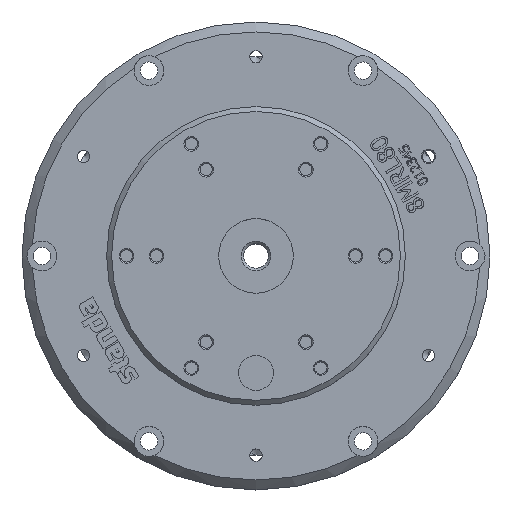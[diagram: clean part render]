
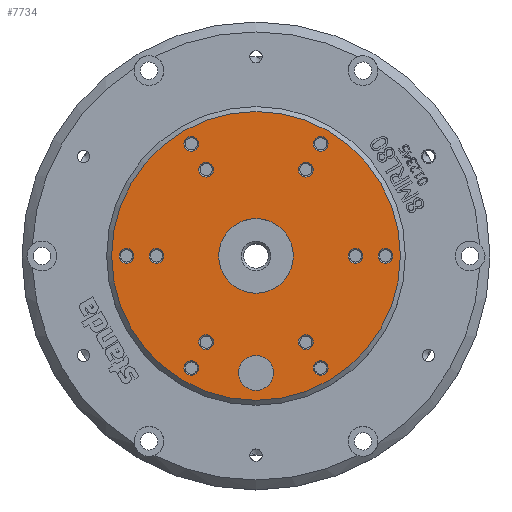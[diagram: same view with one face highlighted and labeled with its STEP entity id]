
A CAD part, top view. The second image highlights one B-rep face of the part: STEP entity #7734.
In plain terms, the highlighted planar face has unit normal (0, 0, 1).
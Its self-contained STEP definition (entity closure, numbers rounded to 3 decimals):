
#521=FACE_BOUND($,#1673,.T.);
#522=FACE_BOUND($,#1674,.T.);
#523=FACE_BOUND($,#1675,.T.);
#524=FACE_BOUND($,#1676,.T.);
#525=FACE_BOUND($,#1677,.T.);
#526=FACE_BOUND($,#1678,.T.);
#527=FACE_BOUND($,#1679,.T.);
#528=FACE_BOUND($,#1680,.T.);
#529=FACE_BOUND($,#1681,.T.);
#530=FACE_BOUND($,#1682,.T.);
#531=FACE_BOUND($,#1683,.T.);
#532=FACE_BOUND($,#1684,.T.);
#533=FACE_BOUND($,#1685,.T.);
#534=FACE_BOUND($,#1686,.T.);
#535=FACE_BOUND($,#1687,.T.);
#789=PLANE($,#8187);
#1673=EDGE_LOOP($,(#7112));
#1674=EDGE_LOOP($,(#7113));
#1675=EDGE_LOOP($,(#7114));
#1676=EDGE_LOOP($,(#7115));
#1677=EDGE_LOOP($,(#7116));
#1678=EDGE_LOOP($,(#7117));
#1679=EDGE_LOOP($,(#7118));
#1680=EDGE_LOOP($,(#7119));
#1681=EDGE_LOOP($,(#7120));
#1682=EDGE_LOOP($,(#7121));
#1683=EDGE_LOOP($,(#7122));
#1684=EDGE_LOOP($,(#7123));
#1685=EDGE_LOOP($,(#7124));
#1686=EDGE_LOOP($,(#7125));
#1687=EDGE_LOOP($,(#7126));
#3198=CIRCLE($,#8186,1.48);
#3199=CIRCLE($,#8188,1.48);
#3200=CIRCLE($,#8189,1.48);
#3201=CIRCLE($,#8190,1.48);
#3202=CIRCLE($,#8191,1.48);
#3203=CIRCLE($,#8192,1.48);
#3204=CIRCLE($,#8193,1.48);
#3205=CIRCLE($,#8194,3.5);
#3206=CIRCLE($,#8195,7.5);
#3207=CIRCLE($,#8196,29.);
#3208=CIRCLE($,#8197,1.48);
#3209=CIRCLE($,#8198,1.48);
#3210=CIRCLE($,#8199,1.48);
#3211=CIRCLE($,#8200,1.48);
#3212=CIRCLE($,#8201,1.48);
#3950=VERTEX_POINT($,#13811);
#3951=VERTEX_POINT($,#13814);
#3952=VERTEX_POINT($,#13816);
#3953=VERTEX_POINT($,#13818);
#3954=VERTEX_POINT($,#13820);
#3955=VERTEX_POINT($,#13822);
#3956=VERTEX_POINT($,#13824);
#3957=VERTEX_POINT($,#13826);
#3958=VERTEX_POINT($,#13828);
#3959=VERTEX_POINT($,#13830);
#3960=VERTEX_POINT($,#13832);
#3961=VERTEX_POINT($,#13834);
#3962=VERTEX_POINT($,#13836);
#3963=VERTEX_POINT($,#13838);
#3964=VERTEX_POINT($,#13840);
#5031=EDGE_CURVE($,#3950,#3950,#3198,.T.);
#5032=EDGE_CURVE($,#3951,#3951,#3199,.T.);
#5033=EDGE_CURVE($,#3952,#3952,#3200,.T.);
#5034=EDGE_CURVE($,#3953,#3953,#3201,.T.);
#5035=EDGE_CURVE($,#3954,#3954,#3202,.T.);
#5036=EDGE_CURVE($,#3955,#3955,#3203,.T.);
#5037=EDGE_CURVE($,#3956,#3956,#3204,.T.);
#5038=EDGE_CURVE($,#3957,#3957,#3205,.T.);
#5039=EDGE_CURVE($,#3958,#3958,#3206,.T.);
#5040=EDGE_CURVE($,#3959,#3959,#3207,.T.);
#5041=EDGE_CURVE($,#3960,#3960,#3208,.T.);
#5042=EDGE_CURVE($,#3961,#3961,#3209,.T.);
#5043=EDGE_CURVE($,#3962,#3962,#3210,.T.);
#5044=EDGE_CURVE($,#3963,#3963,#3211,.T.);
#5045=EDGE_CURVE($,#3964,#3964,#3212,.T.);
#7112=ORIENTED_EDGE($,*,*,#5032,.F.);
#7113=ORIENTED_EDGE($,*,*,#5033,.F.);
#7114=ORIENTED_EDGE($,*,*,#5034,.F.);
#7115=ORIENTED_EDGE($,*,*,#5035,.F.);
#7116=ORIENTED_EDGE($,*,*,#5036,.F.);
#7117=ORIENTED_EDGE($,*,*,#5037,.F.);
#7118=ORIENTED_EDGE($,*,*,#5038,.T.);
#7119=ORIENTED_EDGE($,*,*,#5039,.T.);
#7120=ORIENTED_EDGE($,*,*,#5040,.F.);
#7121=ORIENTED_EDGE($,*,*,#5041,.F.);
#7122=ORIENTED_EDGE($,*,*,#5042,.F.);
#7123=ORIENTED_EDGE($,*,*,#5043,.F.);
#7124=ORIENTED_EDGE($,*,*,#5044,.F.);
#7125=ORIENTED_EDGE($,*,*,#5045,.F.);
#7126=ORIENTED_EDGE($,*,*,#5031,.F.);
#7734=ADVANCED_FACE($,(#521,#522,#523,#524,#525,#526,#527,#528,#529,#530,
#531,#532,#533,#534,#535),#789,.T.);
#8186=AXIS2_PLACEMENT_3D($,#13812,#9718,#9719);
#8187=AXIS2_PLACEMENT_3D($,#13813,#9720,#9721);
#8188=AXIS2_PLACEMENT_3D($,#13815,#9722,#9723);
#8189=AXIS2_PLACEMENT_3D($,#13817,#9724,#9725);
#8190=AXIS2_PLACEMENT_3D($,#13819,#9726,#9727);
#8191=AXIS2_PLACEMENT_3D($,#13821,#9728,#9729);
#8192=AXIS2_PLACEMENT_3D($,#13823,#9730,#9731);
#8193=AXIS2_PLACEMENT_3D($,#13825,#9732,#9733);
#8194=AXIS2_PLACEMENT_3D($,#13827,#9734,#9735);
#8195=AXIS2_PLACEMENT_3D($,#13829,#9736,#9737);
#8196=AXIS2_PLACEMENT_3D($,#13831,#9738,#9739);
#8197=AXIS2_PLACEMENT_3D($,#13833,#9740,#9741);
#8198=AXIS2_PLACEMENT_3D($,#13835,#9742,#9743);
#8199=AXIS2_PLACEMENT_3D($,#13837,#9744,#9745);
#8200=AXIS2_PLACEMENT_3D($,#13839,#9746,#9747);
#8201=AXIS2_PLACEMENT_3D($,#13841,#9748,#9749);
#9718=DIRECTION('center_axis',(0.,0.,
1.));
#9719=DIRECTION('ref_axis',(-0.5,0.866,0.));
#9720=DIRECTION('center_axis',(0.,0.,
1.));
#9721=DIRECTION('ref_axis',(1.,0.,0.));
#9722=DIRECTION('center_axis',(0.,0.,
1.));
#9723=DIRECTION('ref_axis',(0.5,0.866,0.));
#9724=DIRECTION('center_axis',(0.,0.,
1.));
#9725=DIRECTION('ref_axis',(0.5,-0.866,0.));
#9726=DIRECTION('center_axis',(0.,0.,
1.));
#9727=DIRECTION('ref_axis',(-1.,0.,0.));
#9728=DIRECTION('center_axis',(0.,0.,
1.));
#9729=DIRECTION('ref_axis',(-1.,0.,0.));
#9730=DIRECTION('center_axis',(0.,0.,
1.));
#9731=DIRECTION('ref_axis',(-1.,0.,0.));
#9732=DIRECTION('center_axis',(0.,0.,
1.));
#9733=DIRECTION('ref_axis',(-1.,0.,0.));
#9734=DIRECTION('center_axis',(0.,0.,
-1.));
#9735=DIRECTION('ref_axis',(-1.,0.,0.));
#9736=DIRECTION('center_axis',(0.,0.,
-1.));
#9737=DIRECTION('ref_axis',(1.,0.,0.));
#9738=DIRECTION('center_axis',(0.,0.,
-1.));
#9739=DIRECTION('ref_axis',(-1.,0.,0.));
#9740=DIRECTION('center_axis',(0.,0.,
1.));
#9741=DIRECTION('ref_axis',(-1.,0.,0.));
#9742=DIRECTION('center_axis',(0.,0.,
1.));
#9743=DIRECTION('ref_axis',(-1.,0.,0.));
#9744=DIRECTION('center_axis',(0.,0.,
1.));
#9745=DIRECTION('ref_axis',(-1.,0.,0.));
#9746=DIRECTION('center_axis',(0.,0.,
1.));
#9747=DIRECTION('ref_axis',(-0.5,-0.866,0.));
#9748=DIRECTION('center_axis',(0.,0.,
1.));
#9749=DIRECTION('ref_axis',(1.,0.,0.));
#13811=CARTESIAN_POINT('',(-25.26,-1.281,50.));
#13812=CARTESIAN_POINT('Origin',(-26.,0.,50.));
#13813=CARTESIAN_POINT('Origin',(0.,29.,50.));
#13814=CARTESIAN_POINT('',(-13.74,21.235,50.));
#13815=CARTESIAN_POINT('Origin',(-13.,22.517,50.));
#13816=CARTESIAN_POINT('',(25.26,1.281,50.));
#13817=CARTESIAN_POINT('Origin',(26.,0.,50.));
#13818=CARTESIAN_POINT('',(-11.521,-22.517,50.));
#13819=CARTESIAN_POINT('Origin',(-13.,-22.517,50.));
#13820=CARTESIAN_POINT('',(-18.521,0.,50.));
#13821=CARTESIAN_POINT('Origin',(-20.,0.,50.));
#13822=CARTESIAN_POINT('',(11.48,17.321,50.));
#13823=CARTESIAN_POINT('Origin',(10.,17.321,50.));
#13824=CARTESIAN_POINT('',(11.48,-17.321,50.));
#13825=CARTESIAN_POINT('Origin',(10.,-17.321,50.));
#13826=CARTESIAN_POINT('',(3.5,-23.5,50.));
#13827=CARTESIAN_POINT('Origin',(0.,-23.5,50.));
#13828=CARTESIAN_POINT('',(7.5,0.,50.));
#13829=CARTESIAN_POINT('Origin',(0.,0.,
50.));
#13830=CARTESIAN_POINT('',(0.,29.,50.));
#13831=CARTESIAN_POINT('Origin',(0.,0.,
50.));
#13832=CARTESIAN_POINT('',(21.48,0.,50.));
#13833=CARTESIAN_POINT('Origin',(20.,0.,50.));
#13834=CARTESIAN_POINT('',(-8.521,17.321,50.));
#13835=CARTESIAN_POINT('Origin',(-10.,17.321,50.));
#13836=CARTESIAN_POINT('',(-8.521,-17.321,50.));
#13837=CARTESIAN_POINT('Origin',(-10.,-17.321,50.));
#13838=CARTESIAN_POINT('',(13.74,-21.235,50.));
#13839=CARTESIAN_POINT('Origin',(13.,-22.517,50.));
#13840=CARTESIAN_POINT('',(11.521,22.517,50.));
#13841=CARTESIAN_POINT('Origin',(13.,22.517,50.));
